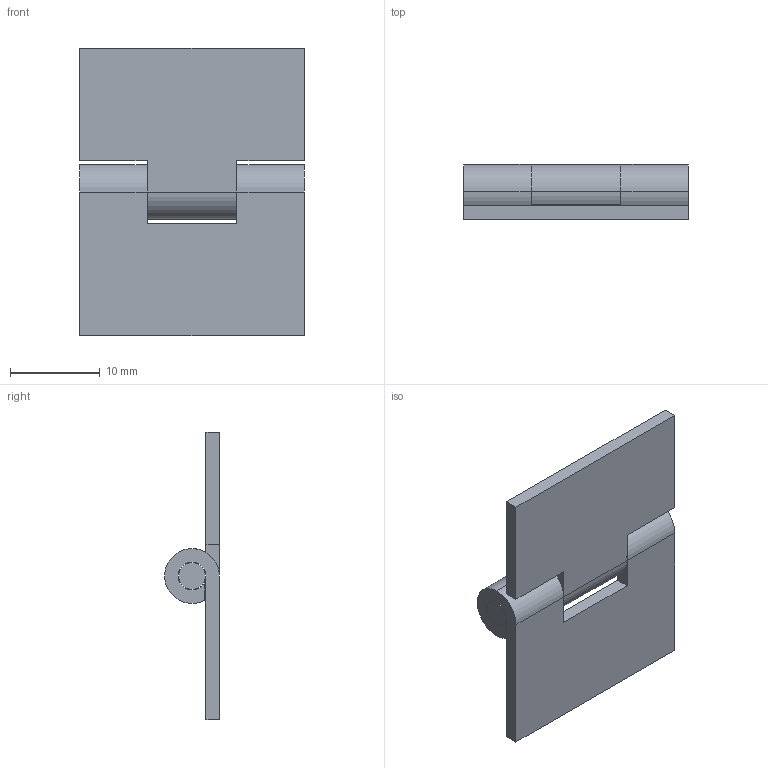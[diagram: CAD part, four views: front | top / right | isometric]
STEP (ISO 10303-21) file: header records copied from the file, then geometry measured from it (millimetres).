
FILE_DESCRIPTION (( 'STEP AP203' ), '1' );
FILE_NAME ('B17-17780.STEP', '2024-10-24T09:35:32', ( '' ), ( '' ), 'SwSTEP 2.0', 'SolidWorks 2021', '' );
FILE_SCHEMA (( 'CONFIG_CONTROL_DESIGN' ));
Length unit declared in the file: millimetre
Products named in the file (4): B17-17780; B17-207800-1; B17-207800-2; B17-3-25
Assembly tree (3 placements, depth 2):
  B17-17780
    B17-207800-1
    B17-207800-2
    B17-3-25
Bounding box: 25 x 6.1 x 32 mm (x, y, z)
Volume: 1712.7 mm3; surface area: 2688.2 mm2
Topology: 3 solids, 3 shells, 42 faces, 108 edges, 72 vertices
Faces by surface type: plane 22, cylinder 20
Entity records: 1706 total; most frequent: DIRECTION 244, CARTESIAN_POINT 228, ORIENTED_EDGE 216, EDGE_CURVE 108, AXIS2_PLACEMENT_3D 88, VERTEX_POINT 72, LINE 68, VECTOR 68
